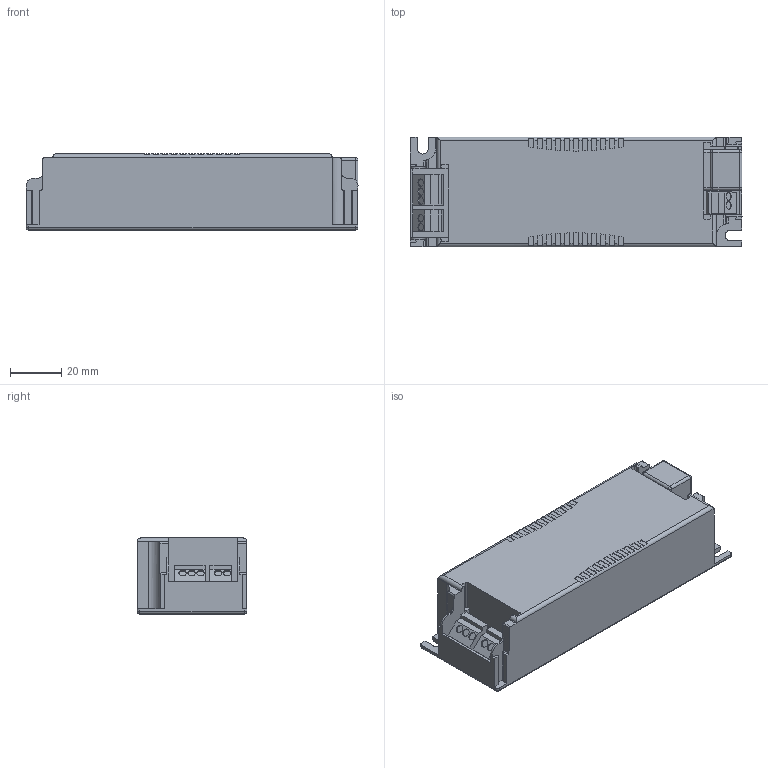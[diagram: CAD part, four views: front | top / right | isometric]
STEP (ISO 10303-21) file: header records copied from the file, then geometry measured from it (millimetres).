
FILE_DESCRIPTION((''),'2;1');
FILE_NAME('15011347_00','2017-08-01T',('elon.guo'),(''),'PRO/ENGINEER BY PARAMETRIC TECHNOLOGY CORPORATION, 2015200','PRO/ENGINEER BY PARAMETRIC TECHNOLOGY CORPORATION, 2015200','');
FILE_SCHEMA(('AUTOMOTIVE_DESIGN { 1 0 10303 214 1 1 1 1 }'));
Length unit declared in the file: millimetre
Products named in the file (1): 15011347_00
Bounding box: 130 x 43 x 29.8 mm (x, y, z)
Volume: 149465.2 mm3; surface area: 24311.9 mm2
Topology: 1 solids, 1 shells, 321 faces, 912 edges, 593 vertices
Faces by surface type: plane 199, cylinder 114, sphere 8
Entity records: 13860 total; most frequent: CARTESIAN_POINT 2031, ORIENTED_EDGE 1808, DIRECTION 1755, PRESENTATION_STYLE_ASSIGNMENT 939, STYLED_ITEM 905, CURVE_STYLE 904, EDGE_CURVE 904, VECTOR 627
